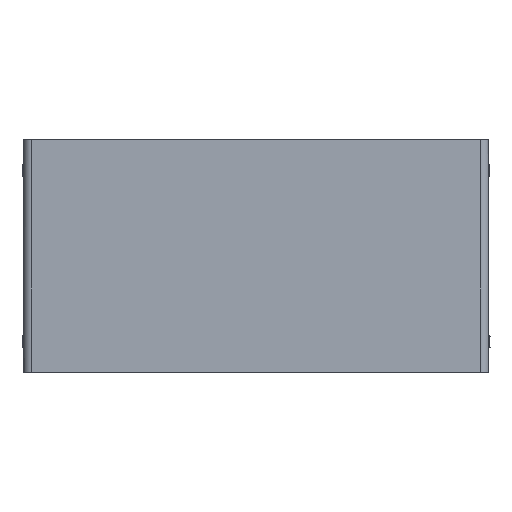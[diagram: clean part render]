
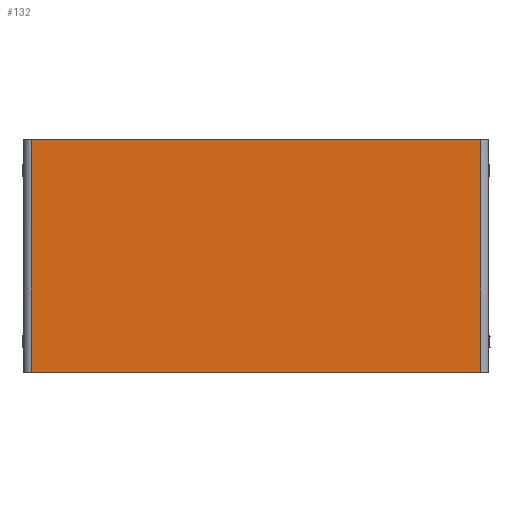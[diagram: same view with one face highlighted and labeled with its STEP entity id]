
A CAD part, top view. The second image highlights one B-rep face of the part: STEP entity #132.
In plain terms, the highlighted planar face has unit normal (0, 0, 1).
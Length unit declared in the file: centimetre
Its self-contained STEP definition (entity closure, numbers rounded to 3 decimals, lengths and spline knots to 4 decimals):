
#132=ADVANCED_FACE($,(#300),#2159,.T.);
#300=FACE_OUTER_BOUND($,#468,.T.);
#468=EDGE_LOOP($,(#960,#961,#962,#963));
#960=ORIENTED_EDGE($,*,*,#1573,.T.);
#961=ORIENTED_EDGE($,*,*,#1574,.T.);
#962=ORIENTED_EDGE($,*,*,#1575,.T.);
#963=ORIENTED_EDGE($,*,*,#1571,.F.);
#1571=EDGE_CURVE($,#1908,#1909,#2494,.T.);
#1573=EDGE_CURVE($,#1908,#1910,#2495,.T.);
#1574=EDGE_CURVE($,#1910,#1911,#2496,.T.);
#1575=EDGE_CURVE($,#1911,#1909,#2497,.T.);
#1908=VERTEX_POINT($,#3768);
#1909=VERTEX_POINT($,#3769);
#1910=VERTEX_POINT($,#3770);
#1911=VERTEX_POINT($,#3771);
#2159=PLANE($,#2747);
#2494=B_SPLINE_CURVE_WITH_KNOTS($,1,(#3669,#3670),.UNSPECIFIED.,.F.,.F.,
(2,2),(0.,600.),.UNSPECIFIED.);
#2495=B_SPLINE_CURVE_WITH_KNOTS($,1,(#3674,#3675),.UNSPECIFIED.,.F.,.F.,
(2,2),(0.,1160.),.UNSPECIFIED.);
#2496=B_SPLINE_CURVE_WITH_KNOTS($,1,(#3676,#3677),.UNSPECIFIED.,.F.,.F.,
(2,2),(0.,600.),.UNSPECIFIED.);
#2497=B_SPLINE_CURVE_WITH_KNOTS($,1,(#3678,#3679),.UNSPECIFIED.,.F.,.F.,
(2,2),(-1160.,0.),.UNSPECIFIED.);
#2747=AXIS2_PLACEMENT_3D($,#3735,#2846,$);
#2846=DIRECTION($,(0.,0.,1.));
#3669=CARTESIAN_POINT($,(115.2391,59.1652,31.4));
#3670=CARTESIAN_POINT($,(115.2391,-0.8348,31.4));
#3674=CARTESIAN_POINT($,(115.2391,59.1652,31.4));
#3675=CARTESIAN_POINT($,(-0.7609,59.1652,31.4));
#3676=CARTESIAN_POINT($,(-0.7609,59.1652,31.4));
#3677=CARTESIAN_POINT($,(-0.7609,-0.8348,31.4));
#3678=CARTESIAN_POINT($,(-0.7609,-0.8348,31.4));
#3679=CARTESIAN_POINT($,(115.2391,-0.8348,31.4));
#3735=CARTESIAN_POINT($,(115.2391,59.1652,31.4));
#3768=CARTESIAN_POINT($,(115.2391,59.1652,31.4));
#3769=CARTESIAN_POINT($,(115.2391,-0.8348,31.4));
#3770=CARTESIAN_POINT($,(-0.7609,59.1652,31.4));
#3771=CARTESIAN_POINT($,(-0.7609,-0.8348,31.4));
